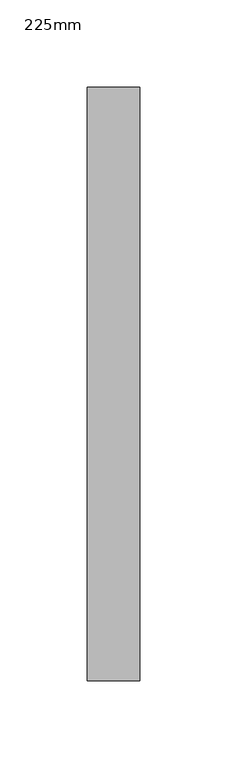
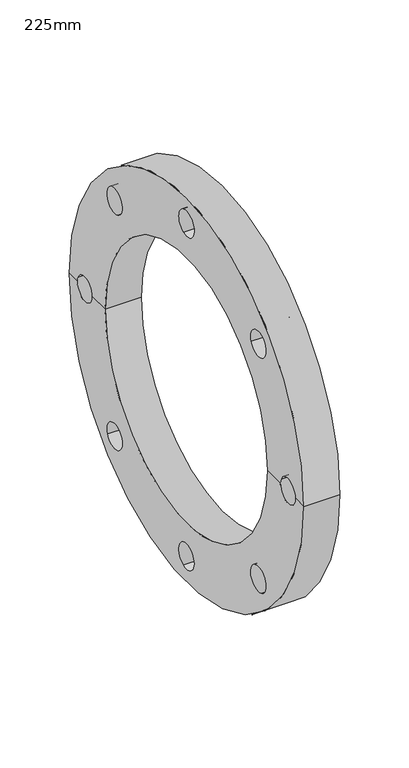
"""IFC4 building model written with IfcOpenShell, lengths in millimetres: pipe fitting geometry, Durapipe_PipeFitting_PVC_BackingFlange : 225mm."""

from ifc_helpers import new_model, si_unit, frame, origin, place, context, project, spatial, polyline, circle_curve, source, transform, mapped, element, save
from ifc_brep_helpers import plane_surface, cylinder_surface, revolved_surface, advanced_brep


def pipe_fitting_225mm_686b6c55(model_context):
    return source(origin(), model_context, "Body", "AdvancedBrep", [
        advanced_brep(
        [(-15.0, 170.0, 0.0), (15.0, 170.0, 0.0), (15.0, -170.0, 0.0), (-15.0, -170.0, 0.0), (-15.0, -158.0998543, 0.0), (-15.0, -157.2611011, -4.2679074), (-15.0, -136.1001255, 0.0), (-15.0, -117.5, 0.0), (-15.0, 117.5, 0.0), (-15.0, 136.1001255, 0.0), (-15.0, 136.9388787, -4.1586741), (-15.0, 158.0998543, 0.0), (-15.0, 114.2182572, -108.1825247), (-15.0, 93.889783, -99.7710364), (-15.0, 4.2679074, -157.2611011), (-15.0, -4.1586741, -136.9388787), (-15.0, -108.1825247, -114.2182572), (-15.0, -99.7710364, -93.889783), (-15.0, 157.2611011, 4.2679074), (-15.0, -136.9388787, 4.1586741), (-15.0, 108.1825247, 114.2182572), (-15.0, 99.7710364, 93.889783), (-15.0, -4.2679074, 157.2611011), (-15.0, 4.1586741, 136.9388787), (-15.0, -114.2182572, 108.1825247), (-15.0, -93.889783, 99.7710364), (15.0, 117.5, 0.0), (15.0, -117.5, 0.0), (15.0, -136.1001255, 0.0), (15.0, -157.2611011, -4.2679074), (15.0, -158.0998543, 0.0), (15.0, 158.0998543, 0.0), (15.0, 136.9388787, -4.1586741), (15.0, 136.1001255, 0.0), (15.0, 93.889783, -99.7710364), (15.0, 114.2182572, -108.1825247), (15.0, -4.1586741, -136.9388787), (15.0, 4.2679074, -157.2611011), (15.0, -99.7710364, -93.889783), (15.0, -108.1825247, -114.2182572), (15.0, 157.2611011, 4.2679074), (15.0, -136.9388787, 4.1586741), (15.0, 99.7710364, 93.889783), (15.0, 108.1825247, 114.2182572), (15.0, 4.1586741, 136.9388787), (15.0, -4.2679074, 157.2611011), (15.0, -93.889783, 99.7710364), (15.0, -114.2182572, 108.1825247)],
        [
            (0, 1),
            (1, 2, circle_curve(frame((15.0, 0.0, 0.0), z_axis=(-1.0, 0.0, 0.0), x_axis=(0.0, 1.0, 0.0)), 170.0)),
            (2, 3),
            (3, 0, circle_curve(frame((-15.0, 0.0, 0.0), z_axis=(1.0, 0.0, 0.0), x_axis=(0.0, 1.0, 0.0)), 170.0)),
            (0, 3, circle_curve(frame((-15.0, 0.0, 0.0), z_axis=(1.0, 0.0, 0.0), x_axis=(0.0, 1.0, 0.0)), 170.0)),
            (2, 1, circle_curve(frame((15.0, 0.0, 0.0), z_axis=(-1.0, 0.0, 0.0), x_axis=(0.0, 1.0, 0.0)), 170.0)),
            (3, 4),
            (4, 5, circle_curve(frame((-15.0, -147.0999899, -0.0546166), z_axis=(1.0, 0.0, 0.0), x_axis=(0.0, -0.9237373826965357, -0.38302643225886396)), 11.0)),
            (5, 6, circle_curve(frame((-15.0, -147.0999899, -0.0546166), z_axis=(1.0, 0.0, 0.0), x_axis=(0.0, -0.9237373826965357, -0.38302643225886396)), 11.0)),
            (6, 7),
            (7, 8, circle_curve(frame((-15.0, 0.0, 0.0), z_axis=(1.0, 0.0, 0.0), x_axis=(0.0, 1.0, 0.0)), 117.5)),
            (8, 9),
            (9, 10, circle_curve(frame((-15.0, 147.0999899, 0.0546166), z_axis=(1.0, 0.0, 0.0), x_axis=(0.0, 0.92373738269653, 0.38302643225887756)), 11.0)),
            (10, 11, circle_curve(frame((-15.0, 147.0999899, 0.0546166), z_axis=(1.0, 0.0, 0.0), x_axis=(0.0, 0.92373738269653, 0.38302643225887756)), 11.0)),
            (11, 0),
            (12, 13, circle_curve(frame((-15.0, 104.0540201, -103.9767806), z_axis=(1.0, 0.0, 0.0), x_axis=(0.0, 0.9240215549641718, -0.3823403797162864)), 11.0)),
            (13, 12, circle_curve(frame((-15.0, 104.0540201, -103.9767806), z_axis=(1.0, 0.0, 0.0), x_axis=(0.0, 0.9240215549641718, -0.3823403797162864)), 11.0)),
            (14, 15, circle_curve(frame((-15.0, 0.0546166, -147.0999899), z_axis=(1.0, 0.0, 0.0), x_axis=(0.0, 0.3830264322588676, -0.9237373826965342)), 11.0)),
            (15, 14, circle_curve(frame((-15.0, 0.0546166, -147.0999899), z_axis=(1.0, 0.0, 0.0), x_axis=(0.0, 0.3830264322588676, -0.9237373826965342)), 11.0)),
            (16, 17, circle_curve(frame((-15.0, -103.9767806, -104.0540201), z_axis=(1.0, 0.0, 0.0), x_axis=(0.0, -0.3823403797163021, -0.9240215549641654)), 11.0)),
            (17, 16, circle_curve(frame((-15.0, -103.9767806, -104.0540201), z_axis=(1.0, 0.0, 0.0), x_axis=(0.0, -0.3823403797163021, -0.9240215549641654)), 11.0)),
            (11, 18, circle_curve(frame((-15.0, 147.0999899, 0.0546166), z_axis=(1.0, 0.0, 0.0), x_axis=(0.0, 0.92373738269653, 0.38302643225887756)), 11.0)),
            (18, 9, circle_curve(frame((-15.0, 147.0999899, 0.0546166), z_axis=(1.0, 0.0, 0.0), x_axis=(0.0, 0.92373738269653, 0.38302643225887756)), 11.0)),
            (8, 7, circle_curve(frame((-15.0, 0.0, 0.0), z_axis=(1.0, 0.0, 0.0), x_axis=(0.0, 1.0, 0.0)), 117.5)),
            (6, 19, circle_curve(frame((-15.0, -147.0999899, -0.0546166), z_axis=(1.0, 0.0, 0.0), x_axis=(0.0, -0.9237373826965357, -0.38302643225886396)), 11.0)),
            (19, 4, circle_curve(frame((-15.0, -147.0999899, -0.0546166), z_axis=(1.0, 0.0, 0.0), x_axis=(0.0, -0.9237373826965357, -0.38302643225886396)), 11.0)),
            (20, 21, circle_curve(frame((-15.0, 103.9767806, 104.0540201), z_axis=(1.0, 0.0, 0.0), x_axis=(0.0, 0.3823403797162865, 0.9240215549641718)), 11.0)),
            (21, 20, circle_curve(frame((-15.0, 103.9767806, 104.0540201), z_axis=(1.0, 0.0, 0.0), x_axis=(0.0, 0.3823403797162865, 0.9240215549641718)), 11.0)),
            (22, 23, circle_curve(frame((-15.0, -0.0546166, 147.0999899), z_axis=(1.0, 0.0, 0.0), x_axis=(0.0, -0.38302643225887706, 0.9237373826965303)), 11.0)),
            (23, 22, circle_curve(frame((-15.0, -0.0546166, 147.0999899), z_axis=(1.0, 0.0, 0.0), x_axis=(0.0, -0.38302643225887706, 0.9237373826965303)), 11.0)),
            (24, 25, circle_curve(frame((-15.0, -104.0540201, 103.9767806), z_axis=(1.0, 0.0, 0.0), x_axis=(0.0, -0.9240215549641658, 0.38234037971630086)), 11.0)),
            (25, 24, circle_curve(frame((-15.0, -104.0540201, 103.9767806), z_axis=(1.0, 0.0, 0.0), x_axis=(0.0, -0.9240215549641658, 0.38234037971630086)), 11.0)),
            (26, 8),
            (7, 27),
            (27, 26, circle_curve(frame((15.0, 0.0, 0.0), z_axis=(1.0, 0.0, 0.0), x_axis=(0.0, 1.0, 0.0)), 117.5)),
            (26, 27, circle_curve(frame((15.0, 0.0, 0.0), z_axis=(1.0, 0.0, 0.0), x_axis=(0.0, 1.0, 0.0)), 117.5)),
            (27, 28),
            (28, 29, circle_curve(frame((15.0, -147.0999899, -0.0546166), z_axis=(-1.0, 0.0, 0.0), x_axis=(0.0, -0.9237373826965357, -0.38302643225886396)), 11.0)),
            (29, 30, circle_curve(frame((15.0, -147.0999899, -0.0546166), z_axis=(-1.0, 0.0, 0.0), x_axis=(0.0, -0.9237373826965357, -0.38302643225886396)), 11.0)),
            (30, 2),
            (1, 31),
            (31, 32, circle_curve(frame((15.0, 147.0999899, 0.0546166), z_axis=(-1.0, 0.0, 0.0), x_axis=(0.0, 0.92373738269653, 0.38302643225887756)), 11.0)),
            (32, 33, circle_curve(frame((15.0, 147.0999899, 0.0546166), z_axis=(-1.0, 0.0, 0.0), x_axis=(0.0, 0.92373738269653, 0.38302643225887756)), 11.0)),
            (33, 26),
            (34, 35, circle_curve(frame((15.0, 104.0540201, -103.9767806), z_axis=(-1.0, 0.0, 0.0), x_axis=(0.0, 0.9240215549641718, -0.3823403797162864)), 11.0)),
            (35, 34, circle_curve(frame((15.0, 104.0540201, -103.9767806), z_axis=(-1.0, 0.0, 0.0), x_axis=(0.0, 0.9240215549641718, -0.3823403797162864)), 11.0)),
            (36, 37, circle_curve(frame((15.0, 0.0546166, -147.0999899), z_axis=(-1.0, 0.0, 0.0), x_axis=(0.0, 0.3830264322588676, -0.9237373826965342)), 11.0)),
            (37, 36, circle_curve(frame((15.0, 0.0546166, -147.0999899), z_axis=(-1.0, 0.0, 0.0), x_axis=(0.0, 0.3830264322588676, -0.9237373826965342)), 11.0)),
            (38, 39, circle_curve(frame((15.0, -103.9767806, -104.0540201), z_axis=(-1.0, 0.0, 0.0), x_axis=(0.0, -0.3823403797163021, -0.9240215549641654)), 11.0)),
            (39, 38, circle_curve(frame((15.0, -103.9767806, -104.0540201), z_axis=(-1.0, 0.0, 0.0), x_axis=(0.0, -0.3823403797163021, -0.9240215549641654)), 11.0)),
            (33, 40, circle_curve(frame((15.0, 147.0999899, 0.0546166), z_axis=(-1.0, 0.0, 0.0), x_axis=(0.0, 0.92373738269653, 0.38302643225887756)), 11.0)),
            (40, 31, circle_curve(frame((15.0, 147.0999899, 0.0546166), z_axis=(-1.0, 0.0, 0.0), x_axis=(0.0, 0.92373738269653, 0.38302643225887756)), 11.0)),
            (30, 41, circle_curve(frame((15.0, -147.0999899, -0.0546166), z_axis=(-1.0, 0.0, 0.0), x_axis=(0.0, -0.9237373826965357, -0.38302643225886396)), 11.0)),
            (41, 28, circle_curve(frame((15.0, -147.0999899, -0.0546166), z_axis=(-1.0, 0.0, 0.0), x_axis=(0.0, -0.9237373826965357, -0.38302643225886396)), 11.0)),
            (42, 43, circle_curve(frame((15.0, 103.9767806, 104.0540201), z_axis=(-1.0, 0.0, 0.0), x_axis=(0.0, 0.3823403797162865, 0.9240215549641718)), 11.0)),
            (43, 42, circle_curve(frame((15.0, 103.9767806, 104.0540201), z_axis=(-1.0, 0.0, 0.0), x_axis=(0.0, 0.3823403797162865, 0.9240215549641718)), 11.0)),
            (44, 45, circle_curve(frame((15.0, -0.0546166, 147.0999899), z_axis=(-1.0, 0.0, 0.0), x_axis=(0.0, -0.38302643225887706, 0.9237373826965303)), 11.0)),
            (45, 44, circle_curve(frame((15.0, -0.0546166, 147.0999899), z_axis=(-1.0, 0.0, 0.0), x_axis=(0.0, -0.38302643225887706, 0.9237373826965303)), 11.0)),
            (46, 47, circle_curve(frame((15.0, -104.0540201, 103.9767806), z_axis=(-1.0, 0.0, 0.0), x_axis=(0.0, -0.9240215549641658, 0.38234037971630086)), 11.0)),
            (47, 46, circle_curve(frame((15.0, -104.0540201, 103.9767806), z_axis=(-1.0, 0.0, 0.0), x_axis=(0.0, -0.9240215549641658, 0.38234037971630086)), 11.0)),
            (36, 15),
            (14, 37),
            (34, 13),
            (12, 35),
            (32, 10),
            (18, 40),
            (42, 21),
            (20, 43),
            (44, 23),
            (22, 45),
            (46, 25),
            (24, 47),
            (41, 19),
            (5, 29),
            (38, 17),
            (16, 39),
        ],
        [
            cylinder_surface(frame((-33.7738734, 0.0, 0.0), z_axis=(-1.0, 0.0, 0.0), x_axis=(0.0, 1.0, 0.0)), 170.0),
            plane_surface(frame((-15.0, 0.0, 0.0), z_axis=(-1.0, 0.0, 0.0), x_axis=(0.0, 1.0, 0.0))),
            revolved_surface(polyline([(-15.0, 117.5, 0.0), (15.0, 117.5, 0.0)]), (-33.7738734, 0.0, 0.0), (-1.0, 0.0, 0.0)),
            plane_surface(frame((15.0, 0.0, 0.0), z_axis=(1.0, 0.0, 0.0), x_axis=(0.0, 1.0, 0.0))),
            revolved_surface(polyline([(-15.000000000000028, 4.267907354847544, -157.26110110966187), (14.999999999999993, 4.267907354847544, -157.26110110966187)]), (35.0, 0.0546166, -147.0999899), (-1.0000000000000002, 0.0, 0.0)),
            revolved_surface(polyline([(-15.0, 114.21825720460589, -108.18252477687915), (15.0, 114.21825720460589, -108.18252477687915)]), (35.0, 104.0540201, -103.9767806), (-1.0, 0.0, 0.0)),
            revolved_surface(polyline([(-15.0, 157.26110110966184, 4.267907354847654), (15.0, 157.26110110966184, 4.267907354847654)]), (35.0, 147.0999899, 0.0546166), (-1.0, 0.0, 0.0)),
            revolved_surface(polyline([(-15.000000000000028, 108.18252477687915, 114.21825720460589), (14.999999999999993, 108.18252477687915, 114.21825720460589)]), (35.0, 103.9767806, 104.0540201), (-1.0000000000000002, 0.0, 0.0)),
            revolved_surface(polyline([(-15.000000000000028, -4.267907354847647, 157.26110110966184), (14.999999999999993, -4.267907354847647, 157.26110110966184)]), (35.0, -0.0546166, 147.0999899), (-1.0000000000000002, 0.0, 0.0)),
            revolved_surface(polyline([(-15.0, -114.21825720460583, 108.1825247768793), (15.0, -114.21825720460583, 108.1825247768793)]), (35.0, -104.0540201, 103.9767806), (-1.0, 0.0, 0.0)),
            revolved_surface(polyline([(-15.000000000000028, -157.2611011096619, -4.2679073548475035), (14.999999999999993, -157.2611011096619, -4.2679073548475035)]), (35.0, -147.0999899, -0.0546166), (-1.0000000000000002, 0.0, 0.0)),
            revolved_surface(polyline([(-15.000000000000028, -108.18252477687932, -114.21825720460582), (14.999999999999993, -108.18252477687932, -114.21825720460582)]), (35.0, -103.9767806, -104.0540201), (-1.0000000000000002, 0.0, 0.0)),
        ],
        [
            (0, [[1, 2, 3, 4]]),
            (0, [[-1, 5, -3, 6]]),
            (1, [[-4, 7, 8, 9, 10, 11, 12, 13, 14, 15], [16, 17], [18, 19], [20, 21]]),
            (1, [[-5, -15, 22, 23, -12, 24, -10, 25, 26, -7], [27, 28], [29, 30], [31, 32]]),
            (2, [[33, -11, 34, 35]]),
            (2, [[-33, 36, -34, -24]]),
            (3, [[-35, 37, 38, 39, 40, -2, 41, 42, 43, 44], [45, 46], [47, 48], [49, 50]]),
            (3, [[-36, -44, 51, 52, -41, -6, -40, 53, 54, -37], [55, 56], [57, 58], [59, 60]]),
            (4, [[61, -18, 62, -47]]),
            (4, [[-61, -48, -62, -19]]),
            (5, [[63, -16, 64, -45]]),
            (5, [[-63, -46, -64, -17]]),
            (6, [[65, -13, -23, 66, -51, -43]]),
            (6, [[-65, -42, -52, -66, -22, -14]]),
            (7, [[67, -27, 68, -55]]),
            (7, [[-67, -56, -68, -28]]),
            (8, [[69, -29, 70, -57]]),
            (8, [[-69, -58, -70, -30]]),
            (9, [[71, -31, 72, -59]]),
            (9, [[-71, -60, -72, -32]]),
            (10, [[73, -25, -9, 74, -38, -54]]),
            (10, [[-73, -53, -39, -74, -8, -26]]),
            (11, [[75, -20, 76, -49]]),
            (11, [[-75, -50, -76, -21]]),
        ],
    ),
    ])


if __name__ == "__main__":
    model = new_model("IFC4")
    model_context = context("Model", 3, world=origin())
    ifc_project = project(units=[si_unit("LENGTHUNIT", "METRE", prefix="MILLI")], contexts=[model_context])
    site = spatial("IfcSite", under=ifc_project)
    building = spatial("IfcBuilding", under=site)
    placement = place(None, origin())
    pipe_fitting_225mm_shape = pipe_fitting_225mm_686b6c55(model_context)
    element("IfcPipeFitting", 1, ObjectType="Durapipe_PipeFitting_PVC_BackingFlange : 225mm", at=placement, inside=building, context=model_context, shape_type="MappedRepresentation", body=[
        mapped(pipe_fitting_225mm_shape, transform((0.0, 0.0, 0.0), x_axis=(1.0, 0.0, 0.0), y_axis=(0.0, 1.0, 0.0), z_axis=(0.0, 0.0, 1.0))),
    ])
    save(model, "model.ifc")
